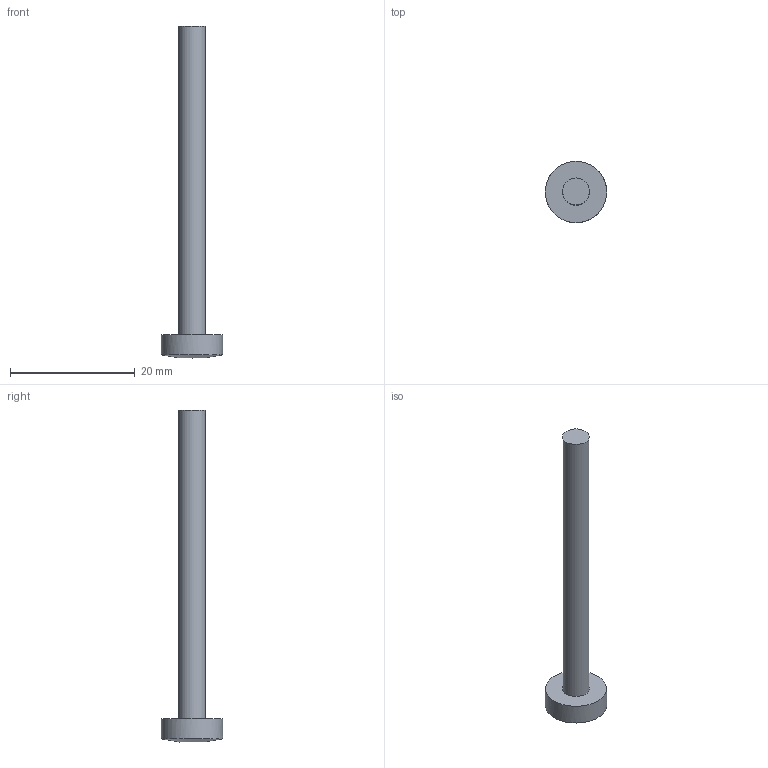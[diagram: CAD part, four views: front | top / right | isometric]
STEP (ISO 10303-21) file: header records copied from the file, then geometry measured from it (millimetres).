
FILE_DESCRIPTION(/* description */ ('STEP AP242 Edition 2','CAx-IF Rec.Pracs.---Representation and Presentation of Product Manufacturing Information (PMI)---4.0---2014-10-13','CAx-IF Rec.Pracs.---3D Tessellated Geometry---0.4---2014-09-14','2;1','CAx-IF Rec.Pracs.---User Defined Attributes---1.5---2016-08-15'),/* implementation_level */ '2;1');
FILE_NAME(/* name */ '5954fef9-2398-417b-b0ef-90a48f29e29a',/* time_stamp */ '2026-02-04T12:55:34Z',/* author */ (''),/* organization */ (''),/* preprocessor_version */ 'ST-DEVELOPER v20',/* originating_system */ 'ONSHAPE BY PTC INC, 1.210',/* authorisation */ ' ');
FILE_SCHEMA (('AP242_MANAGED_MODEL_BASED_3D_ENGINEERING_MIM_LF { 1 0 10303 442 3 1 4 }'));
Length unit declared in the file: metre
Products named in the file (1): hj�rnestang3
Bounding box: 9.84 x 9.84 x 53.23 mm (x, y, z)
Volume: 755.8 mm3; surface area: 1162.7 mm2
Topology: 1 solids, 1 shells, 7 faces, 12 edges, 8 vertices
Faces by surface type: cylinder 3, plane 3, cone 1
Full cylindrical faces by diameter (mm): 4 x1, 4.32 x1, 9.84 x1
Entity records: 163 total; most frequent: CARTESIAN_POINT 30, DIRECTION 26, AXIS2_PLACEMENT_3D 13, ORIENTED_EDGE 12, EDGE_LOOP 12, FACE_BOUND 12, ADVANCED_FACE 7, EDGE_CURVE 6
